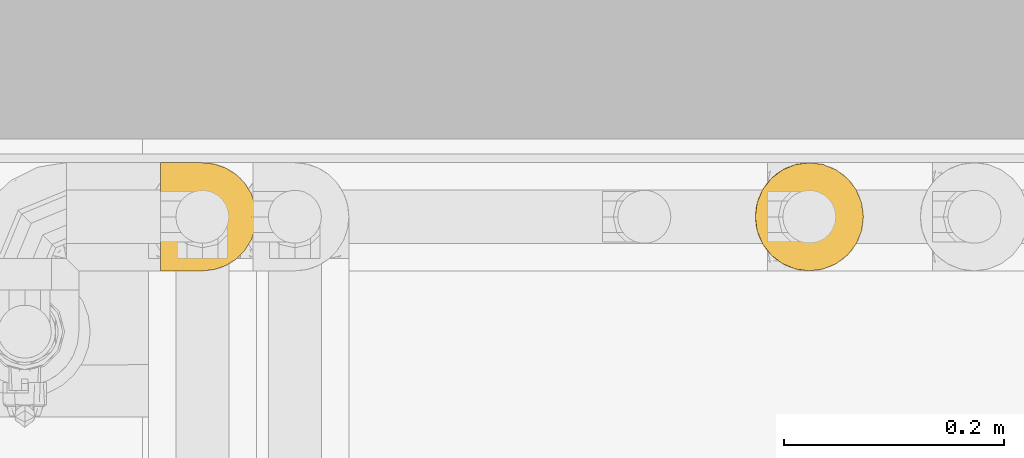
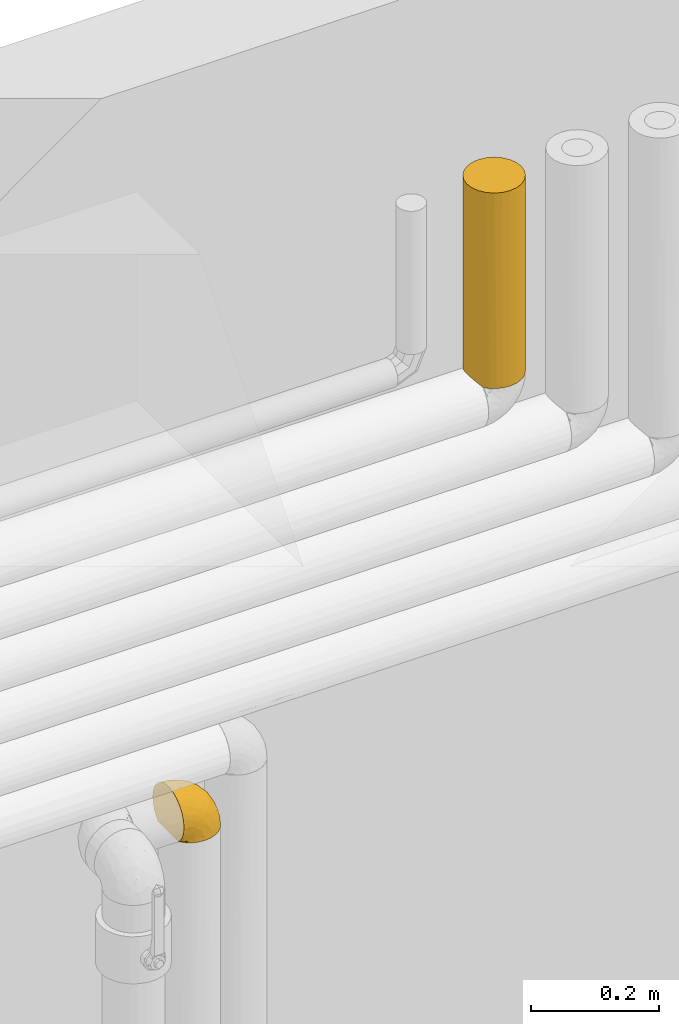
# One storey, part 54 of 94: 2 coverings.
"""IFC2X3 building model written with IfcOpenShell, lengths in millimetres."""

import ifcopenshell
import ifcopenshell.guid

model = None  # the IFC model being written
_history = None  # IfcOwnerHistory: only IFC2X3 demands one
_inside = {}  # id of a spatial element -> (the spatial element, [elements in it])
_under = {}  # id of a project, library or spatial element -> (it, [spatial elements below it])
_declared = {}  # id of a project -> (the project, [libraries it declares])
_typed = {}  # id of a type object -> (the type object, [elements of that type])
_made_of = {}  # id of a material, layer set ... -> (it, [elements and type objects made of it])


def new_model(schema):
    """Start an empty IFC model of exactly this schema.

    Asked for "IFC4X3", IfcOpenShell would pick the latest addendum, in which some entities
    have other attributes; the version numbers below select the first issue.
    IFC2X3 requires an IfcOwnerHistory on every rooted entity: one is made here for all.
    """
    global model, _history
    if schema == "IFC4X3":
        model = ifcopenshell.file(schema_version=(4, 3, 0, 0))
    else:
        model = ifcopenshell.file(schema=schema)
    _inside.clear()
    _under.clear()
    _declared.clear()
    _typed.clear()
    _made_of.clear()
    _history = None
    if model.schema == "IFC2X3":
        org = make("IfcOrganization", Name="unknown")
        user = make(
            "IfcPersonAndOrganization",
            ThePerson=make("IfcPerson", FamilyName="unknown"),
            TheOrganization=org,
        )
        app = make(
            "IfcApplication",
            ApplicationDeveloper=org,
            Version="unknown",
            ApplicationFullName="unknown",
            ApplicationIdentifier="unknown",
        )
        _history = make(
            "IfcOwnerHistory",
            OwningUser=user,
            OwningApplication=app,
            ChangeAction="ADDED",
            CreationDate=0,
        )
    return model


def make(cls, **values):
    """One entity of the class cls with the attributes given. An attribute that is None is left unset."""
    return model.create_entity(
        cls, **{name: value for name, value in values.items() if value is not None}
    )


def entity(cls, *values):
    """Any entity or typed value of the class cls, its attributes in the order of the schema. None: left unset."""
    e = model.create_entity(cls)
    for i, value in enumerate(values):
        if value is not None:
            e[i] = value
    return e


def rooted(cls, **values):
    """An entity with a GlobalId (a new one), such as an element, a storey or a relation."""
    return make(cls, GlobalId=ifcopenshell.guid.new(), OwnerHistory=_history, **values)


def si_unit(unit_type, name, prefix=None):
    """IfcSIUnit, for example si_unit("LENGTHUNIT", "METRE", prefix="MILLI")."""
    return make("IfcSIUnit", UnitType=unit_type, Prefix=prefix, Name=name)


def converted_unit(unit_type, name, factor, base, dimensions=None, offset=None):
    """IfcConversionBasedUnit, such as the inch: factor (a typed value) times the base unit."""
    return make(
        "IfcConversionBasedUnit"
        if offset is None
        else "IfcConversionBasedUnitWithOffset",
        ConversionOffset=offset,
        Dimensions=None
        if dimensions is None
        else entity("IfcDimensionalExponents", *dimensions),
        UnitType=unit_type,
        Name=name,
        ConversionFactor=make(
            "IfcMeasureWithUnit", ValueComponent=factor, UnitComponent=base
        ),
    )


def derived_unit(unit_type, elements):
    """IfcDerivedUnit: a product of units, each with its exponent."""
    return make(
        "IfcDerivedUnit",
        Elements=[
            make("IfcDerivedUnitElement", Unit=unit, Exponent=power)
            for unit, power in elements
        ],
        UnitType=unit_type,
    )


def assignment(units):
    """IfcUnitAssignment: the units of a project."""
    return None if units is None else make("IfcUnitAssignment", Units=units)


def point(xyz):
    """IfcCartesianPoint."""
    return None if xyz is None else make("IfcCartesianPoint", Coordinates=xyz)


def direction(xyz):
    """IfcDirection."""
    return None if xyz is None else make("IfcDirection", DirectionRatios=xyz)


def frame(location, z_axis=None, x_axis=None):
    """IfcAxis2Placement3D, a coordinate frame: its origin and axes. An axis left out is left unset."""
    return make(
        "IfcAxis2Placement3D",
        Location=point(location),
        Axis=direction(z_axis),
        RefDirection=direction(x_axis),
    )


def origin():
    """The frame at (0, 0, 0) with its axes left unset."""
    return frame((0.0, 0.0, 0.0))


def place(relative_to, where):
    """IfcLocalPlacement: puts the frame where relative to a parent placement (None: the world)."""
    return make(
        "IfcLocalPlacement", PlacementRelTo=relative_to, RelativePlacement=where
    )


def context(
    kind, dimensions, precision=None, world=None, true_north=None, identifier=None
):
    """IfcGeometricRepresentationContext, for example the 3D "Model" context."""
    return make(
        "IfcGeometricRepresentationContext",
        ContextIdentifier=identifier,
        ContextType=kind,
        CoordinateSpaceDimension=dimensions,
        Precision=precision,
        WorldCoordinateSystem=world,
        TrueNorth=true_north,
    )


def subcontext(parent, identifier, kind, view, scale=None):
    """IfcGeometricRepresentationSubContext, for example "Body" below "Model"."""
    return make(
        "IfcGeometricRepresentationSubContext",
        ContextIdentifier=identifier,
        ContextType=kind,
        ParentContext=parent,
        TargetScale=scale,
        TargetView=view,
    )


def project(units=None, contexts=None):
    """IfcProject with its units and contexts."""
    return rooted(
        "IfcProject",
        Name="project",
        RepresentationContexts=contexts,
        UnitsInContext=assignment(units),
    )


def spatial(cls, under=None, at=None, **own):
    """A site, building, storey or space (cls), placed at a placement, below another one or the project."""
    s = rooted(cls, ObjectPlacement=at, **own)
    if under is not None:
        _under.setdefault(under.id(), (under, []))[1].append(s)
    return s


def faces_of(points, faces, orient=None, outer=None):
    """IfcFace entities. A face is a list of loops; a loop is a list of indices into points, from 0.

    orient and outer hold one flag for each loop. By default every Orientation is true, the
    first loop of a face is its IfcFaceOuterBound and the others are IfcFaceBound.
    """
    made = []
    for i, loops in enumerate(faces):
        bounds = []
        for j, loop in enumerate(loops):
            is_outer = j == 0 if outer is None else outer[i][j]
            bounds.append(
                make(
                    "IfcFaceOuterBound" if is_outer else "IfcFaceBound",
                    Bound=make("IfcPolyLoop", Polygon=[points[k] for k in loop]),
                    Orientation=True if orient is None else orient[i][j],
                )
            )
        made.append(make("IfcFace", Bounds=bounds))
    return made


def faceted_brep(points, faces, orient=None, outer=None, voids=None):
    """IfcFacetedBrep: a solid bounded by flat faces; with voids (closed shells), ...WithVoids."""
    shared = [point(p) for p in points]
    hull = make("IfcClosedShell", CfsFaces=faces_of(shared, faces, orient, outer))
    if voids is None:
        return make("IfcFacetedBrep", Outer=hull)
    return make(
        "IfcFacetedBrepWithVoids",
        Outer=hull,
        Voids=[
            make(cls, CfsFaces=faces_of(shared, fs, o, b)) for cls, fs, o, b in voids
        ],
    )


def shape(context_of_items, identifier, shape_type, items):
    """IfcShapeRepresentation: the items that make up one representation, for example the "Body"."""
    return make(
        "IfcShapeRepresentation",
        ContextOfItems=context_of_items,
        RepresentationIdentifier=identifier,
        RepresentationType=shape_type,
        Items=items,
    )


def material(Name=None, Category=None):
    """IfcMaterial."""
    return make("IfcMaterial", Name=Name, Category=Category)


def made_of(thing, what):
    """Note that an element or type object is made of a material, layer set ...; save() writes the relation."""
    if what is not None:
        _made_of.setdefault(what.id(), (what, []))[1].append(thing)
    return thing


def element(
    cls,
    number,
    at=None,
    inside=None,
    cuts=None,
    type_object=None,
    material=None,
    context=None,
    identifier="Body",
    shape_type=None,
    held_by="IfcProductDefinitionShape",
    body=None,
    shapes=None,
    **own,
):
    """One element of the class cls, such as IfcWall. Its Tag is "e" and its number.

    at: its placement. inside: the storey or other place that contains it. cuts: it is an
    opening in that element (IfcRelVoidsElement). A single representation is given by context,
    identifier, shape_type and body (its items); several are given by shapes. held_by: the class
    of the entity that holds the representations. save() writes the other relations.
    """
    e = rooted(cls, Tag="e%d" % number, ObjectPlacement=at, **own)
    if body is not None:
        shapes = [shape(context, identifier, shape_type, body)]
    if shapes is not None:
        e.Representation = make(held_by, Representations=shapes)
    if inside is not None:
        _inside.setdefault(inside.id(), (inside, []))[1].append(e)
    if cuts is not None:
        rooted(
            "IfcRelVoidsElement", RelatingBuildingElement=cuts, RelatedOpeningElement=e
        )
    if type_object is not None:
        _typed.setdefault(type_object.id(), (type_object, []))[1].append(e)
    return made_of(e, material)


def aggregate(whole, parts):
    """IfcRelAggregates: a whole, such as a stair, and the parts it consists of."""
    return rooted("IfcRelAggregates", RelatingObject=whole, RelatedObjects=parts)


def save(model, path):
    """Write the relations noted so far, then the file.

    IfcRelAggregates (storeys below a building ...), IfcRelContainedInSpatialStructure (elements
    in a storey), IfcRelDefinesByType, IfcRelAssociatesMaterial and IfcRelDeclares: one each for
    every whole, place, type object, material and project.
    """
    for whole, parts in _under.values():
        aggregate(whole, parts)
    for where, things in _inside.values():
        rooted(
            "IfcRelContainedInSpatialStructure",
            RelatedElements=things,
            RelatingStructure=where,
        )
    for kind, things in _typed.values():
        rooted("IfcRelDefinesByType", RelatedObjects=things, RelatingType=kind)
    for what, things in _made_of.values():
        rooted("IfcRelAssociatesMaterial", RelatedObjects=things, RelatingMaterial=what)
    for by, libraries in _declared.values():
        rooted("IfcRelDeclares", RelatingContext=by, RelatedDefinitions=libraries)
    model.write(path)


model = new_model("IFC2X3")

# Units and contexts
model_context = context("Model", 3, precision=0.01, world=origin(), true_north=direction((6.123031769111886e-17, 1.0)))
body_context = subcontext(model_context, "Body", "Model", "MODEL_VIEW")
ifc_project = project(units=[si_unit("LENGTHUNIT", "METRE", prefix="MILLI"), si_unit("AREAUNIT", "SQUARE_METRE"), si_unit("VOLUMEUNIT", "CUBIC_METRE"), converted_unit("PLANEANGLEUNIT", "DEGREE", entity("IfcRatioMeasure", 0.017453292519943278), si_unit("PLANEANGLEUNIT", "RADIAN"), dimensions=[0, 0, 0, 0, 0, 0, 0]), si_unit("MASSUNIT", "GRAM", prefix="KILO"), derived_unit("MASSDENSITYUNIT", [(si_unit("MASSUNIT", "GRAM", prefix="KILO"), 1), (si_unit("LENGTHUNIT", "METRE"), -3)]), derived_unit("IONCONCENTRATIONUNIT", [(si_unit("MASSUNIT", "GRAM", prefix="KILO"), 1), (si_unit("LENGTHUNIT", "METRE"), -3)]), derived_unit("MOMENTOFINERTIAUNIT", [(si_unit("LENGTHUNIT", "METRE"), 4)]), si_unit("TIMEUNIT", "SECOND"), si_unit("FREQUENCYUNIT", "HERTZ"), si_unit("THERMODYNAMICTEMPERATUREUNIT", "DEGREE_CELSIUS"), derived_unit("THERMALTRANSMITTANCEUNIT", [(si_unit("MASSUNIT", "GRAM", prefix="KILO"), 1), (si_unit("THERMODYNAMICTEMPERATUREUNIT", "KELVIN"), -1), (si_unit("TIMEUNIT", "SECOND"), -3)]), derived_unit("THERMALCONDUCTANCEUNIT", [(si_unit("MASSUNIT", "GRAM", prefix="KILO"), 1), (si_unit("THERMODYNAMICTEMPERATUREUNIT", "KELVIN"), -1), (si_unit("TIMEUNIT", "SECOND"), -3), (si_unit("LENGTHUNIT", "METRE"), 1)]), derived_unit("VOLUMETRICFLOWRATEUNIT", [(si_unit("LENGTHUNIT", "METRE"), 3), (si_unit("TIMEUNIT", "SECOND"), -1)]), derived_unit("MASSFLOWRATEUNIT", [(si_unit("MASSUNIT", "GRAM", prefix="KILO"), 1), (si_unit("TIMEUNIT", "SECOND"), -1)]), derived_unit("ROTATIONALFREQUENCYUNIT", [(si_unit("TIMEUNIT", "SECOND"), -1)]), si_unit("ELECTRICCURRENTUNIT", "AMPERE"), si_unit("ELECTRICVOLTAGEUNIT", "VOLT"), si_unit("POWERUNIT", "WATT"), si_unit("FORCEUNIT", "NEWTON", prefix="KILO"), si_unit("ILLUMINANCEUNIT", "LUX"), si_unit("LUMINOUSFLUXUNIT", "LUMEN"), si_unit("LUMINOUSINTENSITYUNIT", "CANDELA"), derived_unit("USERDEFINED", [(si_unit("MASSUNIT", "GRAM", prefix="KILO"), -1), (si_unit("LENGTHUNIT", "METRE"), -2), (si_unit("TIMEUNIT", "SECOND"), 3), (si_unit("LUMINOUSFLUXUNIT", "LUMEN"), 1)]), derived_unit("USERDEFINED", [(si_unit("MASSUNIT", "GRAM", prefix="KILO"), 1), (si_unit("TIMEUNIT", "SECOND"), -3), (si_unit("LENGTHUNIT", "METRE"), 3), (si_unit("ELECTRICCURRENTUNIT", "AMPERE"), -2)]), derived_unit("SOUNDPOWERUNIT", [(si_unit("MASSUNIT", "GRAM", prefix="KILO"), 1), (si_unit("TIMEUNIT", "SECOND"), -3), (si_unit("LENGTHUNIT", "METRE"), 2)]), derived_unit("SOUNDPRESSUREUNIT", [(si_unit("MASSUNIT", "GRAM", prefix="KILO"), 1), (si_unit("LENGTHUNIT", "METRE"), -1), (si_unit("TIMEUNIT", "SECOND"), -2)]), derived_unit("LINEARVELOCITYUNIT", [(si_unit("LENGTHUNIT", "METRE"), 1), (si_unit("TIMEUNIT", "SECOND"), -1)]), si_unit("PRESSUREUNIT", "PASCAL"), derived_unit("USERDEFINED", [(si_unit("MASSUNIT", "GRAM", prefix="KILO"), 1), (si_unit("LENGTHUNIT", "METRE"), -2), (si_unit("TIMEUNIT", "SECOND"), -2)]), derived_unit("LINEARFORCEUNIT", [(si_unit("MASSUNIT", "GRAM", prefix="KILO"), 1), (si_unit("TIMEUNIT", "SECOND"), -2)]), derived_unit("PLANARFORCEUNIT", [(si_unit("MASSUNIT", "GRAM", prefix="KILO"), 1), (si_unit("LENGTHUNIT", "METRE"), -1), (si_unit("TIMEUNIT", "SECOND"), -2)]), derived_unit("SPECIFICHEATCAPACITYUNIT", [(si_unit("THERMODYNAMICTEMPERATUREUNIT", "KELVIN"), -1), (si_unit("LENGTHUNIT", "METRE"), 2), (si_unit("TIMEUNIT", "SECOND"), -2)]), derived_unit("HEATINGVALUEUNIT", [(si_unit("LENGTHUNIT", "METRE"), 2), (si_unit("TIMEUNIT", "SECOND"), -2)]), derived_unit("VAPORPERMEABILITYUNIT", [(si_unit("LENGTHUNIT", "METRE"), -1), (si_unit("TIMEUNIT", "SECOND"), 1)]), derived_unit("DYNAMICVISCOSITYUNIT", [(si_unit("MASSUNIT", "GRAM", prefix="KILO"), 1), (si_unit("TIMEUNIT", "SECOND"), -1), (si_unit("LENGTHUNIT", "METRE"), -1)]), derived_unit("THERMALEXPANSIONCOEFFICIENTUNIT", [(si_unit("THERMODYNAMICTEMPERATUREUNIT", "KELVIN"), -1)]), derived_unit("MODULUSOFELASTICITYUNIT", [(si_unit("MASSUNIT", "GRAM", prefix="KILO"), 1), (si_unit("LENGTHUNIT", "METRE"), -1), (si_unit("TIMEUNIT", "SECOND"), -2)]), derived_unit("ISOTHERMALMOISTURECAPACITYUNIT", [(si_unit("LENGTHUNIT", "METRE"), 3), (si_unit("MASSUNIT", "GRAM", prefix="KILO"), -1)]), derived_unit("MOISTUREDIFFUSIVITYUNIT", [(si_unit("TIMEUNIT", "SECOND"), -1), (si_unit("LENGTHUNIT", "METRE"), 2)])], contexts=[model_context])

# Site, building, storey
site_placement = place(None, origin())
site = spatial("IfcSite", under=ifc_project, at=site_placement, Name="Default", CompositionType="ELEMENT")
building_placement = place(site_placement, origin())
building = spatial("IfcBuilding", under=site, at=building_placement, CompositionType="ELEMENT")
storey_placement = place(building_placement, origin())
storey = spatial("IfcBuildingStorey", under=building, at=storey_placement, Name="Niveau 0", CompositionType="ELEMENT", Elevation=0.0)

# Coverings
ifc_material = material(Name="Isolation - Laine minérale")
covering_1_placement = place(storey_placement, frame((-6509.897585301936, 9976.120352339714, 2886.404727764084)))
element("IfcCovering", 1, at=covering_1_placement, inside=storey, material=ifc_material, Name="Isolation des canalisations:Laine minérale", ObjectType="Isolation des canalisations:Laine minérale", PredefinedType="INSULATION", context=body_context, shape_type="Brep", body=[
    faceted_brep([(29.696487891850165, 6.323164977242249, 1.5952722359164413), (20.474956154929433, 12.01254465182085, 1.5952722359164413), (12.725272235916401, 19.584352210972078, 1.5952722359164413), (12.725272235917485, 81.86619226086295, 1.5952722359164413), (20.474956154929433, 89.43799982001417, 1.5952722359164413), (29.696487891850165, 95.12737949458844, 1.5952722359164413), (39.94049838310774, 98.65694811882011, 1.5952722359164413), (50.72527223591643, 99.85527223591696, 1.5952722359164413), (63.4410519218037, 98.18120808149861, 1.5952722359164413), (75.29027223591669, 93.2731003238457, 1.5952722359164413), (85.46542839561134, 85.46542839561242, 1.5952722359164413), (93.2731003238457, 75.29027223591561, 1.5952722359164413), (98.18120808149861, 63.44105192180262, 1.5952722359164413), (99.85527223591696, 50.72527223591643, 1.5952722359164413), (98.18120808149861, 38.00949255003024, 1.5952722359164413), (93.2731003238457, 26.160272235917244, 1.5952722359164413), (85.46542839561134, 15.98511607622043, 1.5952722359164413), (75.29027223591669, 8.17744414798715, 1.5952722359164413), (63.4410519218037, 3.26933639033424, 1.5952722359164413), (50.72527223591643, 1.5952722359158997, 1.5952722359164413), (39.94049838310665, 2.793596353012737, 1.5952722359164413), (8.17744414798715, 26.160272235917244, 375.5952722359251), (15.985116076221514, 15.98511607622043, 375.5952722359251), (26.160272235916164, 8.17744414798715, 375.5952722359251), (38.00949255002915, 3.26933639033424, 375.5952722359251), (50.72527223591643, 1.5952722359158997, 375.5952722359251), (63.4410519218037, 3.26933639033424, 375.5952722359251), (75.29027223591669, 8.17744414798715, 375.5952722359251), (85.46542839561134, 15.98511607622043, 375.5952722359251), (93.2731003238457, 26.160272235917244, 375.5952722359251), (98.18120808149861, 38.00949255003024, 375.5952722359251), (99.85527223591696, 50.72527223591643, 375.5952722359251), (98.18120808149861, 63.44105192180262, 375.5952722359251), (93.2731003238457, 75.29027223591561, 375.5952722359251), (85.46542839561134, 85.46542839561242, 375.5952722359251), (75.29027223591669, 93.2731003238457, 375.5952722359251), (63.4410519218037, 98.18120808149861, 375.5952722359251), (50.72527223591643, 99.85527223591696, 375.5952722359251), (38.00949255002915, 98.18120808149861, 375.5952722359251), (26.160272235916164, 93.2731003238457, 375.5952722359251), (15.985116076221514, 85.46542839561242, 375.5952722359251), (8.17744414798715, 75.29027223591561, 375.5952722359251), (3.26933639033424, 63.44105192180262, 375.5952722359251), (1.5952722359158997, 50.72527223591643, 375.5952722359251), (3.26933639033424, 38.00949255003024, 375.5952722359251), (4.461372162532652, 34.19020495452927, 9.85917230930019), (2.3170998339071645, 42.334459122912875, 12.00344463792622), (1.5952722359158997, 50.72527223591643, 12.725272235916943), (7.965081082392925, 26.531823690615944, 6.355463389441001), (2.3170998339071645, 59.116085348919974, 12.00344463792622), (4.461372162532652, 67.26033951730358, 9.85917230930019), (7.965081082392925, 74.9187207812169, 6.355463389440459)], [[[0, 1, 2, 3, 4, 5, 6, 7, 8, 9, 10, 11, 12, 13, 14, 15, 16, 17, 18, 19, 20]], [[21, 22, 23, 24, 25, 26, 27, 28, 29, 30, 31, 32, 33, 34, 35, 36, 37, 38, 39, 40, 41, 42, 43, 44]], [[30, 29, 15, 14]], [[31, 30, 14, 13]], [[16, 15, 29, 28]], [[18, 17, 27, 26]], [[19, 18, 26, 25]], [[28, 27, 17, 16]], [[20, 25, 24]], [[0, 24, 23]], [[1, 23, 22]], [[19, 25, 20]], [[20, 24, 0]], [[23, 1, 0]], [[22, 2, 1]], [[45, 21, 44]], [[44, 43, 46]], [[47, 46, 43]], [[48, 2, 21]], [[46, 45, 44]], [[48, 21, 45]], [[21, 2, 22]], [[49, 47, 43]], [[49, 43, 42]], [[50, 42, 41]], [[50, 49, 42]], [[3, 51, 41]], [[50, 41, 51]], [[41, 40, 3]], [[4, 40, 39]], [[5, 39, 38]], [[6, 38, 37]], [[4, 39, 5]], [[5, 38, 6]], [[37, 7, 6]], [[40, 4, 3]], [[8, 7, 37, 36]], [[9, 8, 36, 35]], [[35, 34, 10, 9]], [[12, 11, 33, 32]], [[13, 12, 32, 31]], [[34, 33, 11, 10]], [[47, 49, 50, 51, 3, 2, 48, 45, 46]]]),
])
covering_2_placement = place(storey_placement, frame((-7050.335954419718, 9976.10035233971, 2300.7452722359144)))
element("IfcCovering", 2, at=covering_2_placement, inside=storey, material=ifc_material, Name="Isolation des canalisations:Laine minérale", ObjectType="Isolation des canalisations:Laine minérale", PredefinedType="INSULATION", context=body_context, shape_type="Brep", body=[
    faceted_brep([(60.92840990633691, 95.02415814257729, -88.74527223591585), (70.2472924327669, 89.1663101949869, -88.74527223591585), (78.02799613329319, 81.38263886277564, -88.74527223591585), (83.88131648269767, 72.06354573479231, -88.74527223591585), (87.51440414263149, 61.67593083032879, -88.74527223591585), (88.74527223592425, 50.74527223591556, -88.74527223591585), (87.51173151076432, 39.80290363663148, -88.74527223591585), (83.8741581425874, 29.412134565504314, -88.74527223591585), (78.01631019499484, 20.093252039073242, -88.74527223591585), (70.23263886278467, 12.312548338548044, -88.74527223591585), (60.913545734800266, 6.459227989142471, -88.74527223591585), (50.52593083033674, 2.826140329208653, -88.74527223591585), (39.59527223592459, 1.5952722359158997, -88.74527223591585), (28.93618624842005, 2.765001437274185, -88.74527223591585), (18.787971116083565, 6.216868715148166, -88.74527223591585), (9.631578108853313, 11.785042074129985, -88.74527223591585), (1.908891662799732, 19.19437336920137, -88.74527223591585), (1.908891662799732, 21.638642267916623, -88.74527223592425), (1.9088916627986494, 23.41569473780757, -88.74527223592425), (1.908891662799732, 25.192747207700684, -88.74527223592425), (1.908891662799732, 26.692340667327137, -88.74527223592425), (1.908891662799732, 28.191934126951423, -88.74527223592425), (1.908891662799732, 31.191121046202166, -88.74527223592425), (1.9088916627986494, 34.19030796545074, -88.74527223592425), (1.908891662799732, 37.18949488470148, -88.74527223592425), (1.908891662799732, 40.18868180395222, -88.74527223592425), (1.908891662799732, 41.68827526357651, -88.74527223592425), (1.908891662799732, 43.1878687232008, -88.74527223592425), (1.908891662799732, 45.63213762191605, -88.74527223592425), (1.908891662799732, 48.07640652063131, -88.74527223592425), (1.908891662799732, 50.5206754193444, -88.74527223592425), (1.908891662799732, 52.96494431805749, -88.74527223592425), (1.9088916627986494, 55.40921321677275, -88.74527223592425), (1.908891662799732, 57.853482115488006, -88.74527223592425), (1.908891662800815, 60.2977510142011, -88.74527223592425), (1.908891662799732, 62.742019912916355, -88.74527223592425), (1.908891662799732, 65.18628881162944, -88.74527223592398), (1.908891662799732, 67.6305577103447, -88.74527223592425), (1.908891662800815, 70.0748266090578, -88.74527223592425), (1.908891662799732, 72.51909550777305, -88.74527223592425), (1.908891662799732, 74.96336440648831, -88.74527223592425), (1.908891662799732, 77.4076333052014, -88.74527223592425), (1.908891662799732, 79.85190220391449, -88.74527223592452), (1.908891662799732, 82.29617110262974, -88.74527223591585), (9.648191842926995, 89.71827412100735, -88.74527223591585), (18.809406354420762, 95.28368576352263, -88.74527223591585), (28.956643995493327, 98.73008326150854, -88.74527223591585), (39.59527223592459, 99.89527223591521, -88.74527223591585), (50.53764083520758, 98.66173151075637, -88.74527223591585), (1.5952722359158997, 11.777056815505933, -80.69858068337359), (1.5952722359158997, 6.211862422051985, -71.54185633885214), (1.5952722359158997, 2.7632985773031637, -61.39669016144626), (1.5952722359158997, 1.5952722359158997, -50.74527223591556), (1.5952722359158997, 3.270017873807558, -38.02431616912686), (1.5952722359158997, 8.18012363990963, -26.17027223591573), (1.5952722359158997, 15.990973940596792, -15.990973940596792), (1.5952722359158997, 26.170272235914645, -8.180123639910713), (1.5952722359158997, 38.02431616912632, -3.2700178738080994), (1.5952722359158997, 50.74527223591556, -1.5952722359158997), (1.5952722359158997, 63.46622830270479, -3.2700178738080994), (1.5952722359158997, 75.3202722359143, -8.180123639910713), (1.5952722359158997, 85.49957053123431, -15.990973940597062), (1.5952722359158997, 93.31042083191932, -26.17027223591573), (1.5952722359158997, 98.22052659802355, -38.02431616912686), (1.5952722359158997, 99.89527223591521, -50.74527223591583), (1.5952722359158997, 98.72724589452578, -61.39669016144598), (1.5952722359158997, 95.27868204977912, -71.54185633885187), (1.5952722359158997, 89.71348765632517, -80.69858068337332), (1.5952722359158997, 82.29617110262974, -88.43165280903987), (1.5952722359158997, 79.85190220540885, -88.43165280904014), (1.5952722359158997, 78.3523087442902, -88.43165280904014), (1.5952722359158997, 76.3803775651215, -88.43165280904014), (1.5952722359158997, 74.40844638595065, -88.43165280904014), (1.5952722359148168, 72.43651520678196, -88.43165280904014), (1.5952722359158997, 70.46458402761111, -88.43165280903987), (1.5952722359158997, 68.49265284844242, -88.43165280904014), (1.5952722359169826, 66.52072166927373, -88.43165280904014), (1.5952722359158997, 64.54879049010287, -88.43165280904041), (1.5952722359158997, 62.57685931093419, -88.43165280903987), (1.5952722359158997, 60.60492813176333, -88.43165280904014), (1.5952722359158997, 58.632996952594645, -88.43165280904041), (1.5952722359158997, 56.661065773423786, -88.43165280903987), (1.5952722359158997, 54.6891345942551, -88.43165280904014), (1.5952722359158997, 52.71720341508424, -88.43165280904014), (1.5952722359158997, 50.74527223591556, -88.43165280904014), (1.5952722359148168, 48.773341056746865, -88.43165280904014), (1.5952722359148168, 46.80140987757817, -88.43165280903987), (1.5952722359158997, 44.829478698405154, -88.43165280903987), (1.5952722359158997, 42.85754751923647, -88.43165280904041), (1.5952722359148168, 40.88561634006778, -88.43165280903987), (1.5952722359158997, 38.913685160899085, -88.43165280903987), (1.5952722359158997, 36.94175398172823, -88.43165280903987), (1.5952722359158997, 34.96982280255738, -88.43165280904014), (1.5952722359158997, 31.97063588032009, -88.43165280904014), (1.5952722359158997, 28.971448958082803, -88.43165280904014), (1.5952722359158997, 26.5271800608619, -88.43165280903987), (1.5952722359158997, 24.082911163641, -88.43165280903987), (1.5952722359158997, 21.638642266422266, -88.43165280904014), (1.5952722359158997, 19.19437336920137, -88.43165280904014), (1.809643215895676, 53.75333970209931, -88.51635690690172), (1.8184361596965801, 51.832765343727, -88.52492022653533), (1.8193226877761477, 61.47290163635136, -88.52582169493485), (1.8127644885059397, 63.562825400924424, -88.51932032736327), (1.7996191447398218, 48.00102702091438, -88.50736577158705), (1.8054799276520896, 77.2499939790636, -88.51252801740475), (1.8492387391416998, 80.69913834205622, -88.5612663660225), (1.8224415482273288, 42.43807145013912, -88.52905186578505), (1.817034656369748, 22.860776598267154, -88.52350980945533), (1.8150629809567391, 24.70021643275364, -88.52155551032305), (1.824011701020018, 71.3700895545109, -88.53071361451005), (1.8138012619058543, 73.40383885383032, -88.52032288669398), (1.8358544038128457, 44.410002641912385, -88.54408236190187), (1.810897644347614, 37.92771907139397, -88.51753811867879), (1.8073683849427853, 39.81308540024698, -88.5142476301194), (1.824691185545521, 35.95578792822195, -88.53144031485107), (1.8114022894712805, 49.75930651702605, -88.51801699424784), (1.8146264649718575, 21.02757498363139, -88.52112749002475), (1.8038954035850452, 55.67510065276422, -88.51110665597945), (1.8030656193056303, 67.50668767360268, -88.51037001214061), (1.8078125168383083, 65.61454699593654, -88.51465616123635), (1.8062814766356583, 34.104580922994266, -88.51325446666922), (1.8068444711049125, 57.55217518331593, -88.51376773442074), (1.8170346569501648, 79.10210557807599, -88.52350981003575), (1.8056127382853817, 75.39441218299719, -88.51264803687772), (1.8170346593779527, 82.29617110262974, -88.52350981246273), (1.845664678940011, 82.29617110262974, -88.59262879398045), (1.8742946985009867, 82.29617110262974, -88.66174777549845), (1.8170346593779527, 19.19437336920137, -88.52350981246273), (1.7479156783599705, 19.19437336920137, -88.49487979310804), (1.6787966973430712, 19.19437336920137, -88.4662497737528), (1.8305380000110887, 32.212157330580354, -88.53789054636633), (1.8101196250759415, 69.4355922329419, -88.51680397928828), (1.8180768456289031, 46.248287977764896, -88.52455691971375), (1.8158402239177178, 59.49061335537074, -88.52232177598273), (1.8347511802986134, 29.41925201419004, -88.54277043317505), (1.8131030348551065, 27.44213716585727, -88.51964668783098), (1.678796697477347, 82.29617110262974, -88.46624977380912), (1.7479156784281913, 82.29617110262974, -88.49487979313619), (1.8742946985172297, 19.19437336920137, -88.66174777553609), (1.8456646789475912, 19.19437336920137, -88.59262879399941), (5.119742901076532, 4.210283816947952, -66.84532494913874), (4.404433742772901, 8.744179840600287, -76.59278810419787), (9.262466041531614, 4.210283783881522, -67.93076460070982), (7.207652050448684, 9.955583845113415, -79.77802179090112), (11.095272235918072, 1.5952722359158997, -53.290789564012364), (9.051642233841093, 1.5952722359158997, -52.7432005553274), (34.50423757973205, 1.5952722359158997, -69.74527223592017), (23.94501445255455, 2.93549782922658, -74.32039473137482), (22.40014043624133, 4.213452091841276, -81.07886680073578), (20.595272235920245, 1.5952722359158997, -55.83630689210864), (9.666760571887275, 9.405305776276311, -80.67264697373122), (10.551623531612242, 9.963487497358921, -83.13763204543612), (16.01945088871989, 2.9356418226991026, -66.39579772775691), (23.485838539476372, 4.213452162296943, -85.22115378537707), (13.737180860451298, 8.750654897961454, -85.93765126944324), (10.691425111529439, 5.690627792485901, -72.79903813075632), (37.59734395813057, 1.5952722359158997, -81.28890239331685), (37.049754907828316, 1.5952722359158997, -79.24527223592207), (16.728859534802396, 4.482619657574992, -73.61168502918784), (27.54975490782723, 1.5952722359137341, -62.79078956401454), (16.460659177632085, 5.766057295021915, -78.26898539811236), (15.011407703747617, 2.6117250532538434, -42.71659351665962), (24.42980261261, 2.657531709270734, -46.33910334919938), (36.49293031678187, 11.131578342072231, -31.440845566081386), (31.204032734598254, 20.824647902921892, -17.672829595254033), (19.174422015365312, 11.7519547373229, -23.1389879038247), (23.335091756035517, 5.336592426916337, -36.26070217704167), (11.460031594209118, 5.33659286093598, -32.79943692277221), (52.82075697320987, 50.74527223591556, -18.23944117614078), (28.52610329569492, 50.74527223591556, -5.860696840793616), (36.46534309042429, 40.339739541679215, -10.09253095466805), (64.55560047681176, 9.12424327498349, -76.48910815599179), (54.096361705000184, 4.351045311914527, -75.17525932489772), (60.7776621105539, 32.64695426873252, -29.562886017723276), (59.569862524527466, 23.768909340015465, -34.954708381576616), (75.0483217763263, 35.61531809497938, -46.44316922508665), (19.026686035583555, 41.696133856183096, -4.214063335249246), (43.09951705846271, 30.50981773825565, -17.108860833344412), (46.8366514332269, 21.748430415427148, -25.593158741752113), (15.050691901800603, 20.824647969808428, -12.936813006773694), (23.237814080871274, 31.9363827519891, -8.193374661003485), (53.24134352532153, 15.984346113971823, -37.51142897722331), (45.825367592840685, 9.509703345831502, -41.46157905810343), (56.63576814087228, 11.405769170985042, -49.733323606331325), (46.288849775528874, 3.723532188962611, -61.57059128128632), (60.29646320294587, 9.124242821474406, -62.89209880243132), (72.02820629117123, 15.984347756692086, -70.54017915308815), (84.47984763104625, 50.74527223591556, -61.81444117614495), (83.29913826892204, 34.50535109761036, -67.6249225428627), (64.72607481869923, 18.53593481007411, -48.02305876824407), (74.45362859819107, 24.588194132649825, -56.65671676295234), (79.74013519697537, 24.58819389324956, -73.53357104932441), (51.83676030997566, 39.07585882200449, -19.26196392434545), (64.99536385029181, 42.346184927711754, -30.008052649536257), (37.17704034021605, 2.563252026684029, -56.96722300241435), (72.10110329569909, 50.74527223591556, -37.51978749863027), (37.64584570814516, 4.72244931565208, -46.87511479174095), (32.164652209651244, 69.55416102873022, -11.140369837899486), (18.639631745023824, 59.5851078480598, -4.095656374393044), (35.766211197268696, 59.865425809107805, -9.502474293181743), (47.842493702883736, 66.13789702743, -17.812384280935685), (15.27818958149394, 69.55416221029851, -6.46656563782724), (65.81540325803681, 85.49332197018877, -54.54188370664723), (64.55420181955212, 78.98858976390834, -42.32008170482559), (74.46231326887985, 76.88743080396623, -56.65317707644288), (53.25075234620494, 85.49294527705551, -37.50209525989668), (54.62718238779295, 78.28666517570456, -30.584563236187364), (54.10903567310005, 97.13479117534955, -75.17052823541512), (19.802502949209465, 98.95303587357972, -44.78912737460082), (20.595272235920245, 99.89527223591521, -55.83630689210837), (11.095272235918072, 99.89527223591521, -53.290789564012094), (83.30424504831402, 66.97173870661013, -67.62586672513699), (21.09968330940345, 80.665896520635, -14.263403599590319), (60.31003237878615, 92.35692696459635, -62.885892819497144), (64.57029925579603, 92.35692651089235, -76.48653547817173), (13.465140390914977, 89.73858944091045, -21.869885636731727), (16.335810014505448, 96.15395178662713, -33.88211097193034), (41.93007422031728, 79.62483877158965, -22.251999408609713), (27.71501397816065, 89.7385902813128, -26.04782376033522), (59.119767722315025, 59.508159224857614, -24.32928808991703), (60.78019907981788, 68.83452868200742, -29.560349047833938), (10.513874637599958, 99.01263503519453, -42.32143211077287), (79.74926997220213, 76.88743104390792, -73.53143463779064), (75.05329716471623, 65.85652255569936, -46.439690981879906), (72.04103767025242, 85.49294363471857, -70.53686254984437), (46.290673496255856, 97.76388503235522, -61.55381762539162), (34.50423757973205, 99.89527223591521, -69.7452722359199), (36.10518198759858, 98.78930951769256, -54.85547791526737), (27.549754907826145, 99.89527223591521, -62.790789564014), (37.59734395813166, 99.89527223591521, -81.28890239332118), (37.049754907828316, 99.89527223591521, -79.24527223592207), (41.92842909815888, 91.50386042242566, -37.17763207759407), (26.19749743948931, 96.4268312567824, -38.2874599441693), (50.23414181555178, 93.14991945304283, -48.939507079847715), (27.449810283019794, 99.08337182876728, -49.619322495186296), (42.66776613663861, 86.09107557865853, -29.42376899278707), (34.950986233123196, 96.67816905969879, -44.39993285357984), (9.262466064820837, 97.28026029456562, -67.93076584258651), (12.074879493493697, 95.72662397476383, -73.87629022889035), (16.019815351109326, 98.55465842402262, -66.3972519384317), (5.119743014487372, 97.28026045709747, -66.84532555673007), (4.404433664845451, 92.74636428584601, -76.59278866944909), (7.207972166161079, 91.53641117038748, -79.7756765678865), (7.658564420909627, 90.11275627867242, -82.68391989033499), (16.72348065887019, 97.0051951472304, -73.61706313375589), (10.58277305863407, 91.54965419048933, -83.1240265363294), (22.422090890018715, 97.2842704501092, -81.0773593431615), (23.507196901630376, 97.28427059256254, -85.22095110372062), (13.756054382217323, 92.75147496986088, -85.9346659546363), (23.942836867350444, 98.55441347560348, -74.3219171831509), (17.55671847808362, 95.80583125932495, -79.64839749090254)], [[[0, 1, 2, 3, 4, 5, 6, 7, 8, 9, 10, 11, 12, 13, 14, 15, 16, 17, 18, 19, 20, 21, 22, 23, 24, 25, 26, 27, 28, 29, 30, 31, 32, 33, 34, 35, 36, 37, 38, 39, 40, 41, 42, 43, 44, 45, 46, 47, 48]], [[49, 50, 51, 52, 53, 54, 55, 56, 57, 58, 59, 60, 61, 62, 63, 64, 65, 66, 67, 68, 69, 70, 71, 72, 73, 74, 75, 76, 77, 78, 79, 80, 81, 82, 83, 84, 85, 86, 87, 88, 89, 90, 91, 92, 93, 94, 95, 96, 97, 98]], [[99, 100, 83]], [[101, 102, 35]], [[85, 103, 86]], [[71, 70, 104]], [[105, 69, 68]], [[27, 26, 106]], [[18, 107, 108]], [[109, 73, 110]], [[28, 27, 111]], [[25, 112, 113]], [[108, 96, 95]], [[114, 92, 91]], [[103, 85, 115]], [[96, 107, 97]], [[107, 17, 116]], [[78, 102, 101]], [[99, 117, 32]], [[76, 118, 119]], [[120, 92, 114]], [[112, 90, 113]], [[88, 111, 106]], [[40, 39, 110]], [[107, 96, 108]], [[32, 117, 121]], [[91, 90, 112]], [[37, 119, 118]], [[84, 115, 85]], [[69, 105, 122]], [[71, 123, 72]], [[105, 124, 125, 126, 43]], [[116, 17, 16]], [[122, 70, 69]], [[41, 122, 42]], [[116, 127, 128, 129, 98]], [[110, 123, 40]], [[42, 122, 105]], [[120, 23, 130]], [[24, 114, 112]], [[114, 24, 23]], [[104, 123, 71]], [[91, 112, 114]], [[104, 122, 41]], [[24, 112, 25]], [[110, 72, 123]], [[36, 119, 37]], [[40, 123, 41]], [[74, 73, 109]], [[131, 75, 74]], [[118, 131, 37]], [[109, 110, 39]], [[109, 39, 38]], [[73, 72, 110]], [[123, 104, 41]], [[122, 104, 70]], [[26, 25, 113]], [[113, 89, 106]], [[87, 86, 132]], [[113, 106, 26]], [[76, 75, 118]], [[132, 111, 87]], [[106, 111, 27]], [[132, 28, 111]], [[87, 111, 88]], [[88, 106, 89]], [[113, 90, 89]], [[131, 118, 75]], [[38, 37, 131]], [[119, 36, 102]], [[131, 109, 38]], [[109, 131, 74]], [[78, 77, 102]], [[77, 119, 102]], [[77, 76, 119]], [[121, 80, 133]], [[36, 35, 102]], [[33, 121, 133]], [[79, 78, 101]], [[34, 101, 35]], [[132, 29, 28]], [[80, 79, 133]], [[29, 103, 115]], [[30, 29, 115]], [[86, 103, 132]], [[100, 115, 84]], [[31, 30, 100]], [[115, 100, 30]], [[32, 31, 99]], [[117, 81, 121]], [[100, 84, 83]], [[99, 82, 117]], [[81, 117, 82]], [[33, 32, 121]], [[82, 99, 83]], [[100, 99, 31]], [[34, 33, 133]], [[121, 81, 80]], [[133, 101, 34]], [[101, 133, 79]], [[134, 94, 93]], [[23, 120, 114]], [[132, 103, 29]], [[120, 93, 92]], [[93, 120, 130]], [[97, 107, 116]], [[108, 20, 19, 18]], [[21, 135, 134]], [[20, 135, 21]], [[134, 135, 94]], [[108, 95, 135]], [[108, 135, 20]], [[135, 95, 94]], [[134, 22, 21]], [[130, 22, 134]], [[42, 105, 43]], [[105, 68, 136, 137, 124]], [[97, 116, 98]], [[116, 16, 138, 139, 127]], [[18, 17, 107]], [[93, 130, 134]], [[22, 130, 23]], [[140, 141, 142]], [[143, 129, 128, 127]], [[51, 144, 145, 52]], [[146, 147, 148]], [[142, 149, 144]], [[150, 127, 151]], [[50, 140, 51]], [[142, 152, 149]], [[51, 140, 144]], [[129, 143, 141]], [[14, 13, 153]], [[148, 151, 154]], [[155, 141, 143]], [[151, 138, 154]], [[14, 153, 154]], [[16, 15, 138]], [[13, 12, 156, 157]], [[152, 155, 158]], [[159, 158, 147]], [[157, 148, 153]], [[14, 154, 15]], [[49, 98, 129]], [[49, 129, 141]], [[141, 50, 49]], [[160, 148, 147]], [[146, 148, 157]], [[138, 15, 154]], [[150, 158, 155]], [[151, 127, 139, 138]], [[141, 140, 50]], [[144, 140, 142]], [[157, 153, 13]], [[154, 153, 148]], [[149, 152, 159]], [[160, 147, 158]], [[147, 146, 159]], [[155, 152, 142]], [[159, 152, 158]], [[127, 150, 143]], [[160, 150, 151]], [[150, 160, 158]], [[148, 160, 151]], [[141, 155, 142]], [[155, 143, 150]], [[156, 12, 11]], [[161, 149, 162]], [[163, 164, 165]], [[166, 167, 161]], [[168, 169, 170]], [[54, 165, 55]], [[171, 172, 10]], [[173, 174, 175]], [[57, 176, 58]], [[173, 177, 178]], [[179, 56, 55]], [[54, 167, 165]], [[170, 180, 177]], [[56, 179, 180]], [[167, 54, 53]], [[181, 182, 183]], [[184, 146, 172]], [[172, 185, 184]], [[186, 185, 171]], [[186, 9, 8]], [[172, 146, 157, 156]], [[172, 11, 10]], [[173, 178, 174]], [[6, 187, 188]], [[189, 186, 190]], [[191, 186, 8]], [[175, 190, 188]], [[168, 192, 193]], [[189, 190, 174]], [[56, 180, 57]], [[8, 7, 191]], [[188, 7, 6]], [[6, 5, 187]], [[190, 191, 188]], [[159, 194, 162]], [[175, 187, 195]], [[177, 180, 164]], [[10, 9, 171]], [[176, 180, 170]], [[156, 11, 172]], [[163, 165, 166]], [[179, 165, 164]], [[53, 52, 145]], [[185, 189, 183]], [[184, 196, 194]], [[188, 191, 7]], [[186, 191, 190]], [[186, 171, 9]], [[172, 171, 185]], [[187, 175, 188]], [[193, 175, 195]], [[196, 163, 166]], [[163, 181, 178]], [[162, 166, 161]], [[184, 185, 183]], [[178, 177, 164]], [[177, 192, 170]], [[177, 173, 192]], [[176, 170, 169]], [[58, 176, 169]], [[57, 180, 176]], [[193, 192, 173]], [[168, 170, 192]], [[175, 193, 173]], [[168, 193, 195]], [[163, 178, 164]], [[184, 194, 146]], [[178, 181, 174]], [[189, 174, 181]], [[175, 174, 190]], [[183, 189, 181]], [[186, 189, 185]], [[182, 181, 163]], [[183, 182, 184]], [[163, 196, 182]], [[184, 182, 196]], [[165, 179, 55]], [[180, 179, 164]], [[161, 53, 145]], [[165, 167, 166]], [[53, 161, 167]], [[161, 145, 144, 149]], [[159, 162, 149]], [[196, 166, 162]], [[162, 194, 196]], [[146, 194, 159]], [[197, 198, 199]], [[58, 169, 198]], [[197, 199, 200]], [[198, 197, 201]], [[202, 203, 204]], [[60, 59, 201]], [[205, 206, 203]], [[0, 48, 207]], [[208, 209, 210]], [[187, 4, 211]], [[201, 212, 60]], [[213, 214, 207]], [[61, 215, 62]], [[62, 215, 216]], [[3, 211, 4]], [[217, 218, 212]], [[219, 220, 200]], [[216, 208, 221]], [[3, 2, 222]], [[62, 216, 63]], [[61, 60, 212]], [[211, 3, 222]], [[5, 4, 187]], [[217, 197, 200]], [[203, 223, 204]], [[2, 1, 224]], [[225, 213, 207]], [[204, 222, 224]], [[1, 0, 214]], [[204, 224, 202]], [[207, 226, 225]], [[227, 226, 228]], [[223, 211, 204]], [[214, 224, 1]], [[202, 224, 213]], [[48, 47, 229]], [[207, 229, 230, 226]], [[211, 223, 187]], [[218, 231, 232]], [[48, 229, 207]], [[205, 233, 231]], [[233, 213, 225]], [[217, 212, 197]], [[215, 212, 218]], [[228, 234, 227]], [[233, 205, 202]], [[208, 234, 209]], [[63, 221, 64]], [[235, 205, 231]], [[207, 214, 0]], [[224, 214, 213]], [[224, 222, 2]], [[211, 222, 204]], [[219, 223, 220]], [[187, 223, 195]], [[227, 233, 225]], [[234, 228, 209]], [[231, 233, 236]], [[221, 208, 210]], [[232, 208, 216]], [[64, 221, 210]], [[216, 221, 63]], [[233, 202, 213]], [[203, 202, 205]], [[205, 235, 206]], [[223, 203, 220]], [[200, 206, 217]], [[220, 203, 206]], [[232, 231, 236]], [[235, 218, 217]], [[212, 215, 61]], [[216, 215, 218]], [[218, 232, 216]], [[234, 232, 236]], [[232, 234, 208]], [[234, 236, 227]], [[233, 227, 236]], [[226, 227, 225]], [[198, 201, 59]], [[212, 201, 197]], [[58, 198, 59]], [[198, 169, 199]], [[169, 168, 199]], [[219, 200, 199]], [[219, 199, 168]], [[200, 220, 206]], [[168, 195, 219]], [[223, 219, 195]], [[218, 235, 231]], [[206, 235, 217]], [[65, 64, 210]], [[209, 237, 210]], [[238, 237, 239]], [[66, 240, 241]], [[242, 136, 241]], [[243, 137, 242]], [[243, 244, 245]], [[65, 240, 66]], [[136, 68, 67]], [[136, 67, 241]], [[246, 226, 230]], [[66, 241, 67]], [[210, 237, 240]], [[45, 247, 46]], [[209, 239, 237]], [[246, 247, 248]], [[46, 247, 230]], [[249, 250, 244]], [[239, 228, 244]], [[226, 246, 249]], [[250, 248, 245]], [[44, 43, 126]], [[237, 242, 241]], [[248, 45, 44]], [[44, 126, 248]], [[46, 230, 229, 47]], [[245, 126, 125]], [[126, 245, 248]], [[243, 124, 137]], [[210, 240, 65]], [[241, 240, 237]], [[248, 247, 45]], [[230, 247, 246]], [[226, 249, 228]], [[238, 239, 244]], [[239, 209, 228]], [[250, 249, 246]], [[228, 249, 244]], [[243, 242, 238]], [[136, 242, 137]], [[124, 243, 125]], [[125, 243, 245]], [[243, 238, 244]], [[237, 238, 242]], [[248, 250, 246]], [[244, 250, 245]]]),
])

save(model, "model.ifc")
